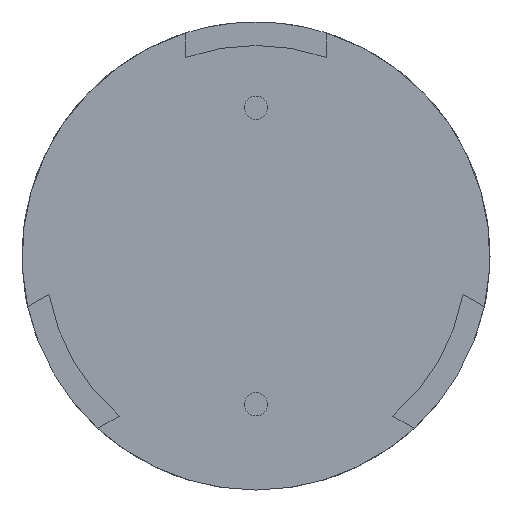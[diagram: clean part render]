
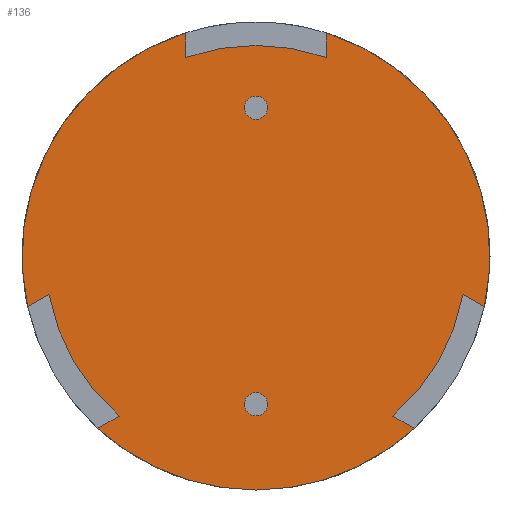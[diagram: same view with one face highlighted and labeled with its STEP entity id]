
A CAD part, front view. The second image highlights one B-rep face of the part: STEP entity #136.
In plain terms, the highlighted planar face has unit normal (0, -1, 0).
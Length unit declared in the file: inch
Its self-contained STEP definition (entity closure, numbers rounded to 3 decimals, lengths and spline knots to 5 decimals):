
#6 = ORIENTED_EDGE ( 'NONE', *, *, #123, .T. ) ;
#11 = EDGE_CURVE ( 'NONE', #1185, #1475, #591, .T. ) ;
#27 = EDGE_CURVE ( 'NONE', #1226, #1482, #1673, .T. ) ;
#36 = DIRECTION ( 'NONE',  ( 0., 1., 0. ) ) ;
#37 = CIRCLE ( 'NONE', #1417, 0.23622 ) ;
#41 = DIRECTION ( 'NONE',  ( 0., 0., -1. ) ) ;
#61 = CARTESIAN_POINT ( 'NONE',  ( -0.13815, 0.39501, -0.16159 ) ) ;
#66 = DIRECTION ( 'NONE',  ( 0., 0., -1. ) ) ;
#70 = AXIS2_PLACEMENT_3D ( 'NONE', #1075, #1107, #939 ) ;
#73 = VECTOR ( 'NONE', #873, 39.37008 ) ;
#89 = ORIENTED_EDGE ( 'NONE', *, *, #321, .T. ) ;
#114 = EDGE_CURVE ( 'NONE', #1482, #574, #615, .T. ) ;
#123 = EDGE_CURVE ( 'NONE', #1144, #211, #681, .T. ) ;
#136 = ADVANCED_FACE ( 'NONE', ( #146 ), #1626, .T. ) ;
#138 = ORIENTED_EDGE ( 'NONE', *, *, #1467, .T. ) ;
#146 = FACE_OUTER_BOUND ( 'NONE', #998, .T. ) ;
#164 = CARTESIAN_POINT ( 'NONE',  ( 0., 0.39501, -0.23622 ) ) ;
#211 = VERTEX_POINT ( 'NONE', #781 ) ;
#212 = DIRECTION ( 'NONE',  ( 0., 0., -1. ) ) ;
#213 = DIRECTION ( 'NONE',  ( 0., 0., 1. ) ) ;
#224 = CARTESIAN_POINT ( 'NONE',  ( 0.20902, 0.39501, -0.03885 ) ) ;
#260 = CARTESIAN_POINT ( 'NONE',  ( 0.13815, 0.39501, -0.16159 ) ) ;
#275 = CARTESIAN_POINT ( 'NONE',  ( 0.07087, 0.39501, 0.22534 ) ) ;
#285 = CARTESIAN_POINT ( 'NONE',  ( 0., 0.39501, 0. ) ) ;
#291 = EDGE_CURVE ( 'NONE', #1226, #1722, #822, .T. ) ;
#292 = DIRECTION ( 'NONE',  ( 0., 0., -1. ) ) ;
#321 = EDGE_CURVE ( 'NONE', #574, #1053, #1155, .T. ) ;
#342 = CIRCLE ( 'NONE', #1335, 0.2126 ) ;
#344 = CIRCLE ( 'NONE', #1068, 0.23622 ) ;
#350 = ORIENTED_EDGE ( 'NONE', *, *, #291, .F. ) ;
#367 = CIRCLE ( 'NONE', #867, 0.23622 ) ;
#385 = CARTESIAN_POINT ( 'NONE',  ( 0.07087, 0.39501, 0.20044 ) ) ;
#393 = DIRECTION ( 'NONE',  ( 0., -1., 0. ) ) ;
#404 = DIRECTION ( 'NONE',  ( 0., 0., 1. ) ) ;
#470 = AXIS2_PLACEMENT_3D ( 'NONE', #1207, #393, #404 ) ;
#482 = DIRECTION ( 'NONE',  ( 0., 1., 0. ) ) ;
#519 = DIRECTION ( 'NONE',  ( -0.866, 0., -0.5 ) ) ;
#558 = EDGE_CURVE ( 'NONE', #211, #1749, #1358, .T. ) ;
#574 = VERTEX_POINT ( 'NONE', #1628 ) ;
#590 = AXIS2_PLACEMENT_3D ( 'NONE', #285, #1231, #292 ) ;
#591 = LINE ( 'NONE', #1004, #73 ) ;
#594 = CARTESIAN_POINT ( 'NONE',  ( -0.23058, 0.39501, -0.0513 ) ) ;
#601 = CARTESIAN_POINT ( 'NONE',  ( 0., 0.39501, 0. ) ) ;
#608 = CARTESIAN_POINT ( 'NONE',  ( 0.07087, 0.39501, 0. ) ) ;
#609 = CARTESIAN_POINT ( 'NONE',  ( 0.23058, 0.39501, -0.0513 ) ) ;
#615 = CIRCLE ( 'NONE', #70, 0.2126 ) ;
#640 = AXIS2_PLACEMENT_3D ( 'NONE', #601, #482, #1675 ) ;
#681 = LINE ( 'NONE', #1593, #1288 ) ;
#686 = ORIENTED_EDGE ( 'NONE', *, *, #1595, .T. ) ;
#756 = LINE ( 'NONE', #224, #1236 ) ;
#761 = VECTOR ( 'NONE', #213, 39.37008 ) ;
#770 = EDGE_CURVE ( 'NONE', #1610, #1722, #756, .T. ) ;
#781 = CARTESIAN_POINT ( 'NONE',  ( -0.20902, 0.39501, -0.03885 ) ) ;
#822 = CIRCLE ( 'NONE', #640, 0.23622 ) ;
#862 = CARTESIAN_POINT ( 'NONE',  ( 0., 0.39501, 0. ) ) ;
#863 = ORIENTED_EDGE ( 'NONE', *, *, #1110, .F. ) ;
#867 = AXIS2_PLACEMENT_3D ( 'NONE', #1680, #1539, #66 ) ;
#873 = DIRECTION ( 'NONE',  ( -0.866, 0., 0.5 ) ) ;
#939 = DIRECTION ( 'NONE',  ( 0., 0., -1. ) ) ;
#956 = ORIENTED_EDGE ( 'NONE', *, *, #27, .T. ) ;
#998 = EDGE_LOOP ( 'NONE', ( #1461, #89, #863, #6, #1737, #686, #1349, #1538, #1650, #138, #1641, #350, #956 ) ) ;
#1004 = CARTESIAN_POINT ( 'NONE',  ( 0.15972, 0.39501, -0.17404 ) ) ;
#1042 = CARTESIAN_POINT ( 'NONE',  ( -0.13815, 0.39501, -0.16159 ) ) ;
#1053 = VERTEX_POINT ( 'NONE', #1262 ) ;
#1064 = DIRECTION ( 'NONE',  ( 0., 1., 0. ) ) ;
#1068 = AXIS2_PLACEMENT_3D ( 'NONE', #1723, #1064, #1432 ) ;
#1075 = CARTESIAN_POINT ( 'NONE',  ( 0., 0.39501, 0. ) ) ;
#1107 = DIRECTION ( 'NONE',  ( 0., -1., 0. ) ) ;
#1110 = EDGE_CURVE ( 'NONE', #1144, #1053, #37, .T. ) ;
#1144 = VERTEX_POINT ( 'NONE', #594 ) ;
#1155 = LINE ( 'NONE', #1544, #761 ) ;
#1157 = VERTEX_POINT ( 'NONE', #164 ) ;
#1168 = CARTESIAN_POINT ( 'NONE',  ( 0.20902, 0.39501, -0.03885 ) ) ;
#1185 = VERTEX_POINT ( 'NONE', #1522 ) ;
#1207 = CARTESIAN_POINT ( 'NONE',  ( 0., 0.39501, 0. ) ) ;
#1226 = VERTEX_POINT ( 'NONE', #275 ) ;
#1231 = DIRECTION ( 'NONE',  ( 0., -1., 0. ) ) ;
#1236 = VECTOR ( 'NONE', #1694, 39.37008 ) ;
#1262 = CARTESIAN_POINT ( 'NONE',  ( -0.07087, 0.39501, 0.22534 ) ) ;
#1288 = VECTOR ( 'NONE', #1730, 39.37008 ) ;
#1330 = LINE ( 'NONE', #1042, #1732 ) ;
#1335 = AXIS2_PLACEMENT_3D ( 'NONE', #1422, #1573, #212 ) ;
#1349 = ORIENTED_EDGE ( 'NONE', *, *, #1359, .F. ) ;
#1358 = CIRCLE ( 'NONE', #590, 0.2126 ) ;
#1359 = EDGE_CURVE ( 'NONE', #1157, #1492, #367, .T. ) ;
#1417 = AXIS2_PLACEMENT_3D ( 'NONE', #862, #36, #41 ) ;
#1422 = CARTESIAN_POINT ( 'NONE',  ( 0., 0.39501, 0. ) ) ;
#1432 = DIRECTION ( 'NONE',  ( 0., 0., -1. ) ) ;
#1461 = ORIENTED_EDGE ( 'NONE', *, *, #114, .T. ) ;
#1465 = CARTESIAN_POINT ( 'NONE',  ( -0.15972, 0.39501, -0.17404 ) ) ;
#1467 = EDGE_CURVE ( 'NONE', #1475, #1610, #342, .T. ) ;
#1475 = VERTEX_POINT ( 'NONE', #260 ) ;
#1482 = VERTEX_POINT ( 'NONE', #385 ) ;
#1492 = VERTEX_POINT ( 'NONE', #1465 ) ;
#1522 = CARTESIAN_POINT ( 'NONE',  ( 0.15972, 0.39501, -0.17404 ) ) ;
#1531 = DIRECTION ( 'NONE',  ( 0., 0., -1. ) ) ;
#1538 = ORIENTED_EDGE ( 'NONE', *, *, #1568, .F. ) ;
#1539 = DIRECTION ( 'NONE',  ( 0., 1., 0. ) ) ;
#1544 = CARTESIAN_POINT ( 'NONE',  ( -0.07087, 0.39501, 0. ) ) ;
#1568 = EDGE_CURVE ( 'NONE', #1185, #1157, #344, .T. ) ;
#1573 = DIRECTION ( 'NONE',  ( 0., -1., 0. ) ) ;
#1593 = CARTESIAN_POINT ( 'NONE',  ( -0.23058, 0.39501, -0.0513 ) ) ;
#1595 = EDGE_CURVE ( 'NONE', #1749, #1492, #1330, .T. ) ;
#1610 = VERTEX_POINT ( 'NONE', #1168 ) ;
#1626 = PLANE ( 'NONE',  #470 ) ;
#1628 = CARTESIAN_POINT ( 'NONE',  ( -0.07087, 0.39501, 0.20044 ) ) ;
#1641 = ORIENTED_EDGE ( 'NONE', *, *, #770, .T. ) ;
#1650 = ORIENTED_EDGE ( 'NONE', *, *, #11, .T. ) ;
#1673 = LINE ( 'NONE', #608, #1754 ) ;
#1675 = DIRECTION ( 'NONE',  ( 0., 0., -1. ) ) ;
#1680 = CARTESIAN_POINT ( 'NONE',  ( 0., 0.39501, 0. ) ) ;
#1694 = DIRECTION ( 'NONE',  ( 0.866, 0., -0.5 ) ) ;
#1722 = VERTEX_POINT ( 'NONE', #609 ) ;
#1723 = CARTESIAN_POINT ( 'NONE',  ( 0., 0.39501, 0. ) ) ;
#1730 = DIRECTION ( 'NONE',  ( 0.866, 0., 0.5 ) ) ;
#1732 = VECTOR ( 'NONE', #519, 39.37008 ) ;
#1737 = ORIENTED_EDGE ( 'NONE', *, *, #558, .T. ) ;
#1749 = VERTEX_POINT ( 'NONE', #61 ) ;
#1754 = VECTOR ( 'NONE', #1531, 39.37008 ) ;
